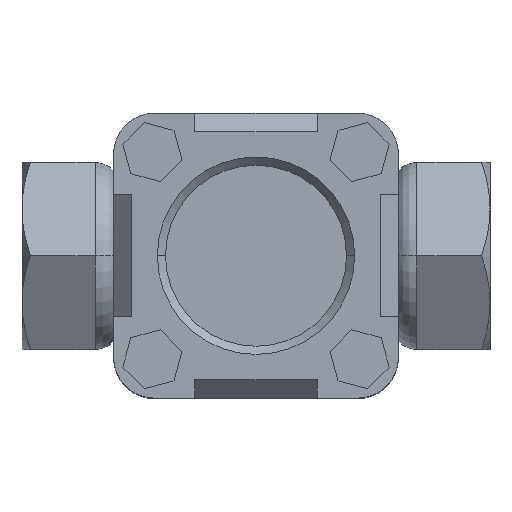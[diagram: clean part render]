
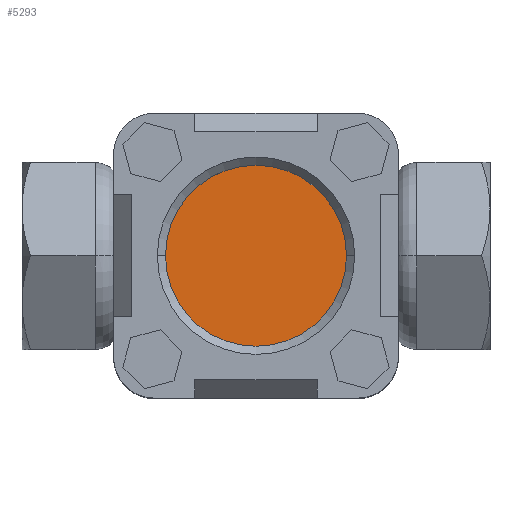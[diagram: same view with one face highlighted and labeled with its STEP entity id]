
A CAD part, top view. The second image highlights one B-rep face of the part: STEP entity #5293.
In plain terms, the highlighted planar face has unit normal (0, 0, 1).
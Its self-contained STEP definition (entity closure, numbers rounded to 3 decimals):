
#92 = ORIENTED_EDGE ( 'NONE', *, *, #4558, .F. ) ;
#961 = DIRECTION ( 'NONE',  ( -1., 0., 0. ) ) ;
#1310 = PLANE ( 'NONE',  #2282 ) ;
#1485 = CARTESIAN_POINT ( 'NONE',  ( 0., 0., 33.3 ) ) ;
#1824 = VERTEX_POINT ( 'NONE', #5300 ) ;
#2075 = CIRCLE ( 'NONE', #4636, 22.25 ) ;
#2233 = VERTEX_POINT ( 'NONE', #4931 ) ;
#2239 = FACE_OUTER_BOUND ( 'NONE', #2751, .T. ) ;
#2282 = AXIS2_PLACEMENT_3D ( 'NONE', #2315, #2345, #4349 ) ;
#2315 = CARTESIAN_POINT ( 'NONE',  ( -22.25, 0., 33.3 ) ) ;
#2345 = DIRECTION ( 'NONE',  ( 0., 0., -1. ) ) ;
#2751 = EDGE_LOOP ( 'NONE', ( #92, #6527 ) ) ;
#2791 = CARTESIAN_POINT ( 'NONE',  ( 0., 0., 33.3 ) ) ;
#4001 = AXIS2_PLACEMENT_3D ( 'NONE', #2791, #6320, #4724 ) ;
#4206 = CIRCLE ( 'NONE', #4001, 22.25 ) ;
#4349 = DIRECTION ( 'NONE',  ( -1., 0., 0. ) ) ;
#4558 = EDGE_CURVE ( 'NONE', #1824, #2233, #2075, .T. ) ;
#4636 = AXIS2_PLACEMENT_3D ( 'NONE', #1485, #6082, #961 ) ;
#4724 = DIRECTION ( 'NONE',  ( -1., 0., 0. ) ) ;
#4931 = CARTESIAN_POINT ( 'NONE',  ( 22.25, 0., 33.3 ) ) ;
#5293 = ADVANCED_FACE ( 'NONE', ( #2239 ), #1310, .F. ) ;
#5300 = CARTESIAN_POINT ( 'NONE',  ( -22.25, 0., 33.3 ) ) ;
#6082 = DIRECTION ( 'NONE',  ( 0., 0., -1. ) ) ;
#6084 = EDGE_CURVE ( 'NONE', #2233, #1824, #4206, .T. ) ;
#6320 = DIRECTION ( 'NONE',  ( 0., 0., -1. ) ) ;
#6527 = ORIENTED_EDGE ( 'NONE', *, *, #6084, .F. ) ;
